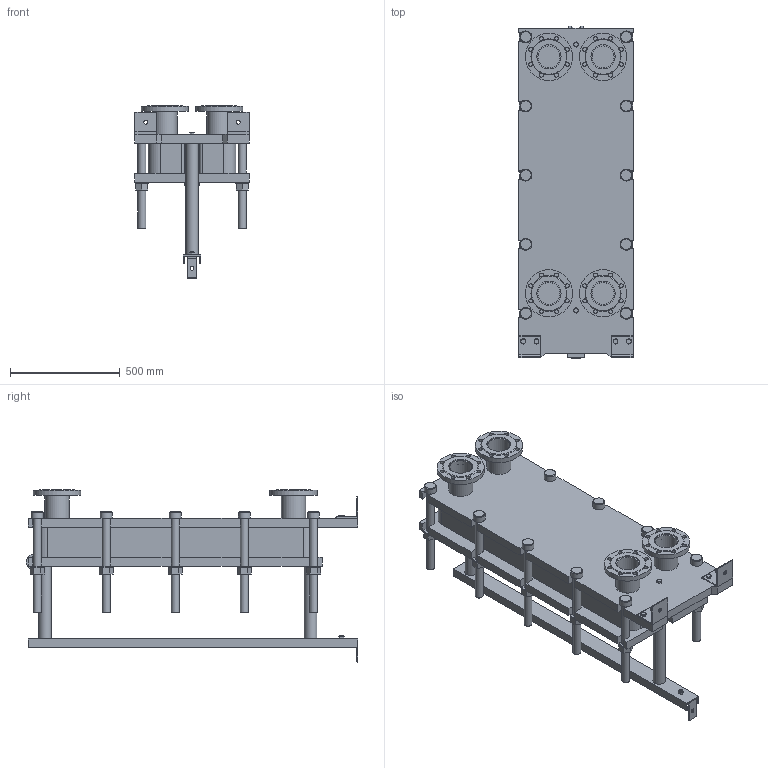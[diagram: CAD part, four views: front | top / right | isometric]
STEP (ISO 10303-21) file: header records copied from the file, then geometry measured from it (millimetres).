
FILE_DESCRIPTION(/* description */ (''),/* implementation_level */ '2;1');
FILE_NAME(/* name */ 'C:\Users\zhuro\Desktop\ENCO\TO\ЭН-04\ЭН-0,5-04-40-1.stp',/* time_stamp */ '2022-06-06T10:47:27+03:00',/* author */ ('zhuro'),/* organization */ (''),/* preprocessor_version */ 'ST-DEVELOPER v18.1',/* originating_system */ 'Autodesk Inventor 2022',/* authorisation */ '');
FILE_SCHEMA (('AP203_CONFIGURATION_CONTROLLED_3D_DESIGN_OF_MECHANICAL_PARTS_AND_ASSEMBLIES_MIM_LF { 1 0 10303 203 3 1 4 }','AUTOMOTIVE_DESIGN { 1 0 10303 214 3 1 1 }'));
Length unit declared in the file: millimetre
Products named in the file (1): ЭН-0,5-04-40-1
Bounding box: 520 x 1510 x 785 mm (x, y, z)
Volume: 136942290.6 mm3; surface area: 7035856.3 mm2
Topology: 45 solids, 45 shells, 668 faces, 1611 edges, 1048 vertices
Faces by surface type: plane 457, cylinder 166, cone 39, torus 6
Full cylindrical faces by diameter (mm): 8 x4, 10 x2, 16 x8, 18 x35, 36 x25, 40 x2, 42 x1, 45 x4, 54 x10, 57 x2, 60 x10, 68 x2, 100 x4, 110 x8, 215 x4
Entity records: 23607 total; most frequent: CARTESIAN_POINT 7348, DIRECTION 3371, ORIENTED_EDGE 3142, EDGE_CURVE 1571, AXIS2_PLACEMENT_3D 1199, VERTEX_POINT 1044, LINE 973, VECTOR 973
